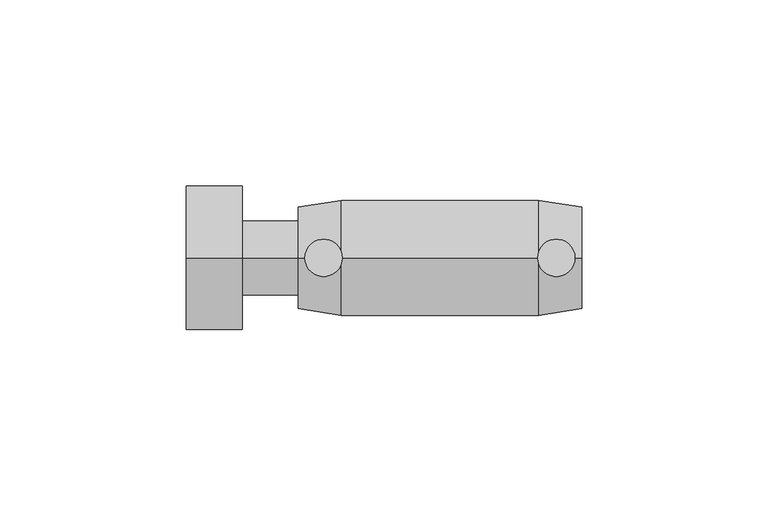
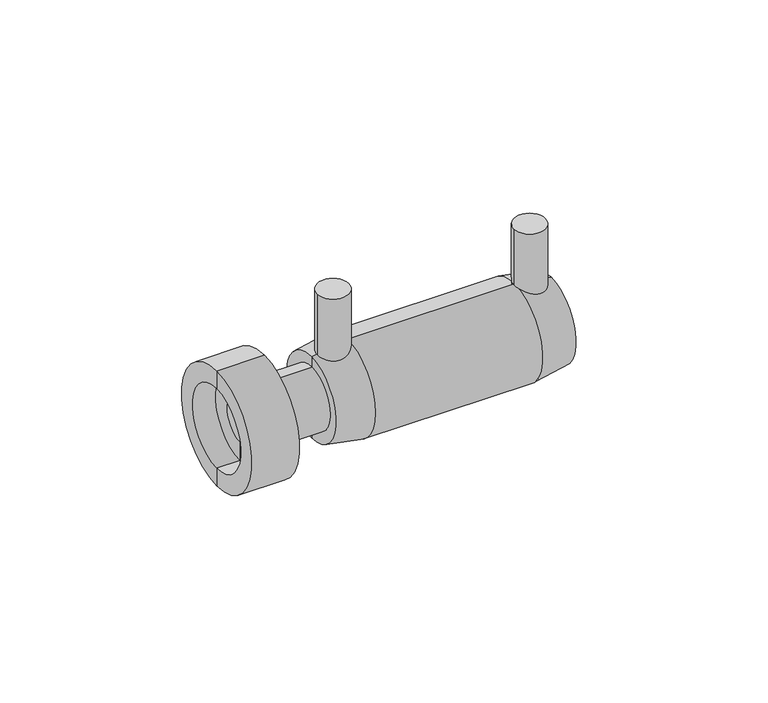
"""IFC4 building model written with IfcOpenShell, lengths in millimetres: pipe fitting geometry, Plumbing_Pipe-Fittings_Plasson_Female-Free-Nut-Transition-Coupler_494104 : Plumbing_Pipe-Fittings_Plasson_Female-Free-Nut-Transition-Coupler_494104."""

import ifcopenshell
import ifcopenshell.guid

model = None  # the IFC model being written
_history = None  # IfcOwnerHistory: only IFC2X3 demands one
_inside = {}  # id of a spatial element -> (the spatial element, [elements in it])
_under = {}  # id of a project, library or spatial element -> (it, [spatial elements below it])
_declared = {}  # id of a project -> (the project, [libraries it declares])
_typed = {}  # id of a type object -> (the type object, [elements of that type])
_made_of = {}  # id of a material, layer set ... -> (it, [elements and type objects made of it])


def new_model(schema):
    """Start an empty IFC model of exactly this schema.

    Asked for "IFC4X3", IfcOpenShell would pick the latest addendum, in which some entities
    have other attributes; the version numbers below select the first issue.
    IFC2X3 requires an IfcOwnerHistory on every rooted entity: one is made here for all.
    """
    global model, _history
    if schema == "IFC4X3":
        model = ifcopenshell.file(schema_version=(4, 3, 0, 0))
    else:
        model = ifcopenshell.file(schema=schema)
    _inside.clear()
    _under.clear()
    _declared.clear()
    _typed.clear()
    _made_of.clear()
    _history = None
    if model.schema == "IFC2X3":
        org = make("IfcOrganization", Name="unknown")
        user = make(
            "IfcPersonAndOrganization",
            ThePerson=make("IfcPerson", FamilyName="unknown"),
            TheOrganization=org,
        )
        app = make(
            "IfcApplication",
            ApplicationDeveloper=org,
            Version="unknown",
            ApplicationFullName="unknown",
            ApplicationIdentifier="unknown",
        )
        _history = make(
            "IfcOwnerHistory",
            OwningUser=user,
            OwningApplication=app,
            ChangeAction="ADDED",
            CreationDate=0,
        )
    return model


def make(cls, **values):
    """One entity of the class cls with the attributes given. An attribute that is None is left unset."""
    return model.create_entity(
        cls, **{name: value for name, value in values.items() if value is not None}
    )


def rooted(cls, **values):
    """An entity with a GlobalId (a new one), such as an element, a storey or a relation."""
    return make(cls, GlobalId=ifcopenshell.guid.new(), OwnerHistory=_history, **values)


def si_unit(unit_type, name, prefix=None):
    """IfcSIUnit, for example si_unit("LENGTHUNIT", "METRE", prefix="MILLI")."""
    return make("IfcSIUnit", UnitType=unit_type, Prefix=prefix, Name=name)


def assignment(units):
    """IfcUnitAssignment: the units of a project."""
    return None if units is None else make("IfcUnitAssignment", Units=units)


def point(xyz):
    """IfcCartesianPoint."""
    return None if xyz is None else make("IfcCartesianPoint", Coordinates=xyz)


def direction(xyz):
    """IfcDirection."""
    return None if xyz is None else make("IfcDirection", DirectionRatios=xyz)


def frame(location, z_axis=None, x_axis=None):
    """IfcAxis2Placement3D, a coordinate frame: its origin and axes. An axis left out is left unset."""
    return make(
        "IfcAxis2Placement3D",
        Location=point(location),
        Axis=direction(z_axis),
        RefDirection=direction(x_axis),
    )


def frame_2d(location, x_axis=None):
    """IfcAxis2Placement2D, a coordinate frame in the plane: its origin and x axis."""
    return make(
        "IfcAxis2Placement2D", Location=point(location), RefDirection=direction(x_axis)
    )


def origin():
    """The frame at (0, 0, 0) with its axes left unset."""
    return frame((0.0, 0.0, 0.0))


def place(relative_to, where):
    """IfcLocalPlacement: puts the frame where relative to a parent placement (None: the world)."""
    return make(
        "IfcLocalPlacement", PlacementRelTo=relative_to, RelativePlacement=where
    )


def context(
    kind, dimensions, precision=None, world=None, true_north=None, identifier=None
):
    """IfcGeometricRepresentationContext, for example the 3D "Model" context."""
    return make(
        "IfcGeometricRepresentationContext",
        ContextIdentifier=identifier,
        ContextType=kind,
        CoordinateSpaceDimension=dimensions,
        Precision=precision,
        WorldCoordinateSystem=world,
        TrueNorth=true_north,
    )


def project(units=None, contexts=None):
    """IfcProject with its units and contexts."""
    return rooted(
        "IfcProject",
        Name="project",
        RepresentationContexts=contexts,
        UnitsInContext=assignment(units),
    )


def spatial(cls, under=None, at=None, **own):
    """A site, building, storey or space (cls), placed at a placement, below another one or the project."""
    s = rooted(cls, ObjectPlacement=at, **own)
    if under is not None:
        _under.setdefault(under.id(), (under, []))[1].append(s)
    return s


def polyline(points):
    """IfcPolyline through the points."""
    return make("IfcPolyline", Points=[point(p) for p in points])


def circle_curve(where, radius):
    """IfcCircle in the frame where."""
    return make("IfcCircle", Position=where, Radius=radius)


def trimmed(basis, trim1, trim2, sense, master):
    """IfcTrimmedCurve: the piece of a basis curve between two trims."""
    return make(
        "IfcTrimmedCurve",
        BasisCurve=basis,
        Trim1=trim1,
        Trim2=trim2,
        SenseAgreement=sense,
        MasterRepresentation=master,
    )


def segment(curve, same_sense, transition):
    """IfcCompositeCurveSegment."""
    return make(
        "IfcCompositeCurveSegment",
        Transition=transition,
        SameSense=same_sense,
        ParentCurve=curve,
    )


def composite_curve(segments, self_intersect=None):
    """IfcCompositeCurve: segments joined end to end."""
    return make("IfcCompositeCurve", Segments=segments, SelfIntersect=self_intersect)


def outline(outer, holes=None, kind="AREA"):
    """IfcArbitraryClosedProfileDef: a profile drawn as a closed curve; with holes, ...WithVoids."""
    if holes is None:
        return make("IfcArbitraryClosedProfileDef", ProfileType=kind, OuterCurve=outer)
    return make(
        "IfcArbitraryProfileDefWithVoids",
        ProfileType=kind,
        OuterCurve=outer,
        InnerCurves=holes,
    )


def extrude(swept, where, along, depth):
    """IfcExtrudedAreaSolid: the profile swept, set in the frame where, extruded along a direction by depth."""
    return make(
        "IfcExtrudedAreaSolid",
        SweptArea=swept,
        Position=where,
        ExtrudedDirection=direction(along),
        Depth=depth,
    )


def shape(context_of_items, identifier, shape_type, items):
    """IfcShapeRepresentation: the items that make up one representation, for example the "Body"."""
    return make(
        "IfcShapeRepresentation",
        ContextOfItems=context_of_items,
        RepresentationIdentifier=identifier,
        RepresentationType=shape_type,
        Items=items,
    )


def source(mapping_origin, context_of_items, identifier, shape_type, items):
    """IfcRepresentationMap: a shape defined once, which mapped items show again and again."""
    return make(
        "IfcRepresentationMap",
        MappingOrigin=mapping_origin,
        MappedRepresentation=shape(context_of_items, identifier, shape_type, items),
    )


def transform(
    local_origin,
    x_axis=None,
    y_axis=None,
    z_axis=None,
    scale=None,
    scale2=None,
    scale3=None,
    uniform=True,
):
    """IfcCartesianTransformationOperator3D, or its non-uniform kind. x_axis, y_axis, z_axis: its Axis1, 2, 3."""
    if uniform:
        return make(
            "IfcCartesianTransformationOperator3D",
            Axis1=direction(x_axis),
            Axis2=direction(y_axis),
            LocalOrigin=point(local_origin),
            Scale=scale,
            Axis3=direction(z_axis),
        )
    return make(
        "IfcCartesianTransformationOperator3DnonUniform",
        Axis1=direction(x_axis),
        Axis2=direction(y_axis),
        LocalOrigin=point(local_origin),
        Scale=scale,
        Axis3=direction(z_axis),
        Scale2=scale2,
        Scale3=scale3,
    )


def mapped(mapping_source, mapping_target):
    """IfcMappedItem: shows the shape of a source again, moved by a transform."""
    return make(
        "IfcMappedItem", MappingSource=mapping_source, MappingTarget=mapping_target
    )


def made_of(thing, what):
    """Note that an element or type object is made of a material, layer set ...; save() writes the relation."""
    if what is not None:
        _made_of.setdefault(what.id(), (what, []))[1].append(thing)
    return thing


def element(
    cls,
    number,
    at=None,
    inside=None,
    cuts=None,
    type_object=None,
    material=None,
    context=None,
    identifier="Body",
    shape_type=None,
    held_by="IfcProductDefinitionShape",
    body=None,
    shapes=None,
    **own,
):
    """One element of the class cls, such as IfcWall. Its Tag is "e" and its number.

    at: its placement. inside: the storey or other place that contains it. cuts: it is an
    opening in that element (IfcRelVoidsElement). A single representation is given by context,
    identifier, shape_type and body (its items); several are given by shapes. held_by: the class
    of the entity that holds the representations. save() writes the other relations.
    """
    e = rooted(cls, Tag="e%d" % number, ObjectPlacement=at, **own)
    if body is not None:
        shapes = [shape(context, identifier, shape_type, body)]
    if shapes is not None:
        e.Representation = make(held_by, Representations=shapes)
    if inside is not None:
        _inside.setdefault(inside.id(), (inside, []))[1].append(e)
    if cuts is not None:
        rooted(
            "IfcRelVoidsElement", RelatingBuildingElement=cuts, RelatedOpeningElement=e
        )
    if type_object is not None:
        _typed.setdefault(type_object.id(), (type_object, []))[1].append(e)
    return made_of(e, material)


def aggregate(whole, parts):
    """IfcRelAggregates: a whole, such as a stair, and the parts it consists of."""
    return rooted("IfcRelAggregates", RelatingObject=whole, RelatedObjects=parts)


def save(model, path):
    """Write the relations noted so far, then the file.

    IfcRelAggregates (storeys below a building ...), IfcRelContainedInSpatialStructure (elements
    in a storey), IfcRelDefinesByType, IfcRelAssociatesMaterial and IfcRelDeclares: one each for
    every whole, place, type object, material and project.
    """
    for whole, parts in _under.values():
        aggregate(whole, parts)
    for where, things in _inside.values():
        rooted(
            "IfcRelContainedInSpatialStructure",
            RelatedElements=things,
            RelatingStructure=where,
        )
    for kind, things in _typed.values():
        rooted("IfcRelDefinesByType", RelatedObjects=things, RelatingType=kind)
    for what, things in _made_of.values():
        rooted("IfcRelAssociatesMaterial", RelatedObjects=things, RelatingMaterial=what)
    for by, libraries in _declared.values():
        rooted("IfcRelDeclares", RelatingContext=by, RelatedDefinitions=libraries)
    model.write(path)


def plane_surface(at):
    """IfcPlane: the flat surface through the origin of the frame at, square to its z axis."""
    return make("IfcPlane", Position=at)


def cylinder_surface(at, radius):
    """IfcCylindricalSurface: all points at the distance radius from the z axis of the frame at."""
    return make("IfcCylindricalSurface", Position=at, Radius=radius)


def revolved_surface(curve, axis_point, axis_direction):
    """IfcSurfaceOfRevolution: the curve turned about the line through axis_point along axis_direction."""
    return make(
        "IfcSurfaceOfRevolution",
        SweptCurve=make("IfcArbitraryOpenProfileDef", ProfileType="CURVE", Curve=curve),
        AxisPosition=make("IfcAxis1Placement", Location=point(axis_point), Axis=direction(axis_direction)),
    )


def advanced_brep(points, edges, surfaces, faces):
    """IfcAdvancedBrep: a solid bounded by faces that lie on surfaces and meet in shared edges.

    An edge is (start, end): straight between two places in points (the first is 0);
    or (start, end, curve); or (start, end, curve, False) where it runs against its curve.
    A face is (place in surfaces, loops), or (place, loops, False) where it looks against
    its surface's normal. A loop lists edges by number (the first is 1), with a minus sign
    where the edge is run from its end to its start. The first loop is the outer one.
    """
    corners = [point(p) for p in points]
    vertices = [make("IfcVertexPoint", VertexGeometry=c) for c in corners]
    made = []
    for start, end, *more in edges:
        made.append(
            make(
                "IfcEdgeCurve",
                EdgeStart=vertices[start],
                EdgeEnd=vertices[end],
                EdgeGeometry=more[0] if more else make("IfcPolyline", Points=[corners[start], corners[end]]),
                SameSense=more[1] if len(more) > 1 else True,
            )
        )
    hull = []
    for where, loops, *sense in faces:
        bounds = []
        for j, loop in enumerate(loops):
            ring = [make("IfcOrientedEdge", EdgeElement=made[abs(k) - 1], Orientation=k > 0) for k in loop]
            bounds.append(
                make(
                    "IfcFaceOuterBound" if j == 0 else "IfcFaceBound",
                    Bound=make("IfcEdgeLoop", EdgeList=ring),
                    Orientation=True,
                )
            )
        hull.append(make("IfcAdvancedFace", Bounds=bounds, FaceSurface=surfaces[where], SameSense=sense[0] if sense else True))
    return make("IfcAdvancedBrep", Outer=make("IfcClosedShell", CfsFaces=hull))


def pipe_fitting_e051d7a7(model_context):
    return source(origin(), model_context, "Body", "SolidModel", [
        extrude(outline(composite_curve([segment(trimmed(circle_curve(frame_2d((-16.2115754, 0.0)), 5.0), [point((-11.2115754, 0.0))], [point((-21.2115754, 0.0))], False, "CARTESIAN"), True, "CONTINUOUS"), segment(trimmed(circle_curve(frame_2d((-16.2115754, 0.0)), 5.0), [point((-21.2115754, 0.0))], [point((-11.2115754, 0.0))], False, "CARTESIAN"), True, "CONTINUOUS")], self_intersect=False)), frame((0.0, 0.0, 11.6666667), z_axis=(0.0, 0.0, 1.0), x_axis=(1.0, 0.0, 0.0)), (0.0, 0.0, 1.0), 22.3333333),
        extrude(outline(composite_curve([segment(trimmed(circle_curve(frame_2d((46.2115754, 0.0)), 5.0), [point((51.2115754, 0.0))], [point((41.2115754, 0.0))], False, "CARTESIAN"), True, "CONTINUOUS"), segment(trimmed(circle_curve(frame_2d((46.2115754, 0.0)), 5.0), [point((41.2115754, 0.0))], [point((51.2115754, 0.0))], False, "CARTESIAN"), True, "CONTINUOUS")], self_intersect=False)), frame((0.0, 0.0, 11.6666667), z_axis=(0.0, 0.0, 1.0), x_axis=(1.0, 0.0, 0.0)), (0.0, 0.0, 1.0), 22.3333333),
        advanced_brep(
        [(-45.8266545, 0.0, -13.335), (-45.8266545, 0.0, 13.335), (-53.0, 0.0, 13.335), (-53.0, 0.0, -13.335), (-45.8266545, 0.0, -7.0), (-45.8266545, 0.0, 7.0), (14.0, 0.0, -10.0), (14.0, 0.0, 10.0), (14.0, 0.0, 7.0), (14.0, 0.0, -7.0), (-38.0, 0.0, -10.0), (-38.0, 0.0, 10.0), (-53.0, 0.0, -19.335), (-53.0, 0.0, 19.335), (-38.0, 0.0, 19.335), (-38.0, 0.0, -19.335)],
        [
            (0, 1, circle_curve(frame((-45.8266545, 0.0, 0.0), z_axis=(1.0, 0.0, 0.0), x_axis=(0.0, 0.0, 1.0)), 13.335)),
            (1, 2),
            (2, 3, circle_curve(frame((-53.0, 0.0, 0.0), z_axis=(-1.0, 0.0, 0.0), x_axis=(0.0, 0.0, 1.0)), 13.335)),
            (3, 0),
            (1, 0, circle_curve(frame((-45.8266545, 0.0, 0.0), z_axis=(1.0, 0.0, 0.0), x_axis=(0.0, 0.0, 1.0)), 13.335)),
            (3, 2, circle_curve(frame((-53.0, 0.0, 0.0), z_axis=(-1.0, 0.0, 0.0), x_axis=(0.0, 0.0, 1.0)), 13.335)),
            (4, 5, circle_curve(frame((-45.8266545, 0.0, 0.0), z_axis=(1.0, 0.0, 0.0), x_axis=(0.0, 0.0, 1.0)), 7.0)),
            (5, 1),
            (0, 4),
            (5, 4, circle_curve(frame((-45.8266545, 0.0, 0.0), z_axis=(1.0, 0.0, 0.0), x_axis=(0.0, 0.0, 1.0)), 7.0)),
            (6, 7, circle_curve(frame((14.0, 0.0, 0.0), z_axis=(1.0, 0.0, 0.0), x_axis=(0.0, 0.0, 1.0)), 10.0)),
            (7, 8),
            (8, 9, circle_curve(frame((14.0, 0.0, 0.0), z_axis=(-1.0, 0.0, 0.0), x_axis=(0.0, 0.0, 1.0)), 7.0)),
            (9, 6),
            (7, 6, circle_curve(frame((14.0, 0.0, 0.0), z_axis=(1.0, 0.0, 0.0), x_axis=(0.0, 0.0, 1.0)), 10.0)),
            (9, 8, circle_curve(frame((14.0, 0.0, 0.0), z_axis=(-1.0, 0.0, 0.0), x_axis=(0.0, 0.0, 1.0)), 7.0)),
            (10, 11, circle_curve(frame((-38.0, 0.0, 0.0), z_axis=(1.0, 0.0, 0.0), x_axis=(0.0, 0.0, 1.0)), 10.0)),
            (11, 7),
            (6, 10),
            (11, 10, circle_curve(frame((-38.0, 0.0, 0.0), z_axis=(1.0, 0.0, 0.0), x_axis=(0.0, 0.0, 1.0)), 10.0)),
            (12, 13, circle_curve(frame((-53.0, 0.0, 0.0), z_axis=(1.0, 0.0, 0.0), x_axis=(0.0, 0.0, 1.0)), 19.335)),
            (13, 14),
            (14, 15, circle_curve(frame((-38.0, 0.0, 0.0), z_axis=(-1.0, 0.0, 0.0), x_axis=(0.0, 0.0, 1.0)), 19.335)),
            (15, 12),
            (13, 12, circle_curve(frame((-53.0, 0.0, 0.0), z_axis=(1.0, 0.0, 0.0), x_axis=(0.0, 0.0, 1.0)), 19.335)),
            (15, 14, circle_curve(frame((-38.0, 0.0, 0.0), z_axis=(-1.0, 0.0, 0.0), x_axis=(0.0, 0.0, 1.0)), 19.335)),
            (2, 13),
            (12, 3),
            (8, 5),
            (4, 9),
            (14, 11),
            (10, 15),
        ],
        [
            revolved_surface(polyline([(-53.0, 0.0, 13.335), (-45.8266545, 0.0, 13.335)]), (-53.0, 0.0, 0.0), (-1.0, 0.0, 0.0)),
            plane_surface(frame((-45.8266545, 0.0, 0.0), z_axis=(-1.0, 0.0, 0.0), x_axis=(0.0, 0.0, 1.0))),
            plane_surface(frame((14.0, 0.0, 0.0), z_axis=(1.0, 0.0, 0.0), x_axis=(0.0, 0.0, 1.0))),
            cylinder_surface(frame((-53.0, 0.0, 0.0), z_axis=(-1.0, 0.0, 0.0), x_axis=(0.0, 0.0, 1.0)), 10.0),
            cylinder_surface(frame((-53.0, 0.0, 0.0), z_axis=(-1.0, 0.0, 0.0), x_axis=(0.0, 0.0, 1.0)), 19.335),
            plane_surface(frame((-53.0, 0.0, 0.0), z_axis=(-1.0, 0.0, 0.0), x_axis=(0.0, 0.0, 1.0))),
            revolved_surface(polyline([(-45.8266545, 0.0, 7.0), (14.0, 0.0, 7.0)]), (-53.0, 0.0, 0.0), (-1.0, 0.0, 0.0)),
            plane_surface(frame((-38.0, 0.0, 0.0), z_axis=(1.0, 0.0, 0.0), x_axis=(0.0, 0.0, 1.0))),
        ],
        [
            (0, [[1, 2, 3, 4]]),
            (0, [[5, -4, 6, -2]]),
            (1, [[7, 8, -1, 9]]),
            (1, [[10, -9, -5, -8]]),
            (2, [[11, 12, 13, 14]]),
            (2, [[15, -14, 16, -12]]),
            (3, [[17, 18, -11, 19]]),
            (3, [[20, -19, -15, -18]]),
            (4, [[21, 22, 23, 24]]),
            (4, [[25, -24, 26, -22]]),
            (5, [[-3, 27, -21, 28]]),
            (5, [[-6, -28, -25, -27]]),
            (6, [[-13, 29, -7, 30]]),
            (6, [[-16, -30, -10, -29]]),
            (7, [[-23, 31, -17, 32]]),
            (7, [[-26, -32, -20, -31]]),
        ],
    ),
        advanced_brep(
        [(53.0, 0.0, -13.6666667), (53.0, 0.0, 13.6666667), (53.0, 0.0, 10.0), (53.0, 0.0, -10.0), (41.5, 0.0, -15.5), (41.5, 0.0, 15.5), (-11.5, 0.0, -15.5), (-11.5, 0.0, 15.5), (-23.0, 0.0, -13.6666667), (-23.0, 0.0, 13.6666667), (-23.0, 0.0, -10.0), (-23.0, 0.0, 10.0), (14.0, 0.0, -10.0), (14.0, 0.0, 10.0), (14.0, 0.0, -7.0), (14.0, 0.0, 7.0), (16.0, 0.0, -7.0), (16.0, 0.0, 7.0), (16.0, 0.0, -10.0), (16.0, 0.0, 10.0)],
        [
            (0, 1, circle_curve(frame((53.0, 0.0, 0.0), z_axis=(1.0, 0.0, 0.0), x_axis=(0.0, 0.0, 1.0)), 13.6666667)),
            (1, 2),
            (2, 3, circle_curve(frame((53.0, 0.0, 0.0), z_axis=(-1.0, 0.0, 0.0), x_axis=(0.0, 0.0, 1.0)), 10.0)),
            (3, 0),
            (1, 0, circle_curve(frame((53.0, 0.0, 0.0), z_axis=(1.0, 0.0, 0.0), x_axis=(0.0, 0.0, 1.0)), 13.6666667)),
            (3, 2, circle_curve(frame((53.0, 0.0, 0.0), z_axis=(-1.0, 0.0, 0.0), x_axis=(0.0, 0.0, 1.0)), 10.0)),
            (4, 5, circle_curve(frame((41.5, 0.0, 0.0), z_axis=(1.0, 0.0, 0.0), x_axis=(0.0, 0.0, 1.0)), 15.5)),
            (5, 1),
            (0, 4),
            (5, 4, circle_curve(frame((41.5, 0.0, 0.0), z_axis=(1.0, 0.0, 0.0), x_axis=(0.0, 0.0, 1.0)), 15.5)),
            (6, 7, circle_curve(frame((-11.5, 0.0, 0.0), z_axis=(1.0, 0.0, 0.0), x_axis=(0.0, 0.0, 1.0)), 15.5)),
            (7, 5),
            (4, 6),
            (7, 6, circle_curve(frame((-11.5, 0.0, 0.0), z_axis=(1.0, 0.0, 0.0), x_axis=(0.0, 0.0, 1.0)), 15.5)),
            (8, 9, circle_curve(frame((-23.0, 0.0, 0.0), z_axis=(1.0, 0.0, 0.0), x_axis=(0.0, 0.0, 1.0)), 13.6666667)),
            (9, 7),
            (6, 8),
            (9, 8, circle_curve(frame((-23.0, 0.0, 0.0), z_axis=(1.0, 0.0, 0.0), x_axis=(0.0, 0.0, 1.0)), 13.6666667)),
            (10, 11, circle_curve(frame((-23.0, 0.0, 0.0), z_axis=(1.0, 0.0, 0.0), x_axis=(0.0, 0.0, 1.0)), 10.0)),
            (11, 9),
            (8, 10),
            (11, 10, circle_curve(frame((-23.0, 0.0, 0.0), z_axis=(1.0, 0.0, 0.0), x_axis=(0.0, 0.0, 1.0)), 10.0)),
            (12, 13, circle_curve(frame((14.0, 0.0, 0.0), z_axis=(1.0, 0.0, 0.0), x_axis=(0.0, 0.0, 1.0)), 10.0)),
            (13, 11),
            (10, 12),
            (13, 12, circle_curve(frame((14.0, 0.0, 0.0), z_axis=(1.0, 0.0, 0.0), x_axis=(0.0, 0.0, 1.0)), 10.0)),
            (14, 15, circle_curve(frame((14.0, 0.0, 0.0), z_axis=(1.0, 0.0, 0.0), x_axis=(0.0, 0.0, 1.0)), 7.0)),
            (15, 13),
            (12, 14),
            (15, 14, circle_curve(frame((14.0, 0.0, 0.0), z_axis=(1.0, 0.0, 0.0), x_axis=(0.0, 0.0, 1.0)), 7.0)),
            (16, 17, circle_curve(frame((16.0, 0.0, 0.0), z_axis=(1.0, 0.0, 0.0), x_axis=(0.0, 0.0, 1.0)), 7.0)),
            (17, 15),
            (14, 16),
            (17, 16, circle_curve(frame((16.0, 0.0, 0.0), z_axis=(1.0, 0.0, 0.0), x_axis=(0.0, 0.0, 1.0)), 7.0)),
            (18, 19, circle_curve(frame((16.0, 0.0, 0.0), z_axis=(1.0, 0.0, 0.0), x_axis=(0.0, 0.0, 1.0)), 10.0)),
            (19, 17),
            (16, 18),
            (19, 18, circle_curve(frame((16.0, 0.0, 0.0), z_axis=(1.0, 0.0, 0.0), x_axis=(0.0, 0.0, 1.0)), 10.0)),
            (2, 19),
            (18, 3),
        ],
        [
            plane_surface(frame((53.0, 0.0, 0.0), z_axis=(1.0, 0.0, 0.0), x_axis=(0.0, 0.0, 1.0))),
            revolved_surface(polyline([(53.0, 0.0, 13.6666667), (41.5, 0.0, 15.5)]), (-23.0, 0.0, 0.0), (-1.0, 0.0, 0.0)),
            cylinder_surface(frame((-23.0, 0.0, 0.0), z_axis=(-1.0, 0.0, 0.0), x_axis=(0.0, 0.0, 1.0)), 15.5),
            revolved_surface(polyline([(-11.5, 0.0, 15.5), (-23.0, 0.0, 13.6666667)]), (-23.0, 0.0, 0.0), (-1.0, 0.0, 0.0)),
            plane_surface(frame((-23.0, 0.0, 0.0), z_axis=(-1.0, 0.0, 0.0), x_axis=(0.0, 0.0, 1.0))),
            revolved_surface(polyline([(-23.0, 0.0, 10.0), (14.0, 0.0, 10.0)]), (-23.0, 0.0, 0.0), (-1.0, 0.0, 0.0)),
            plane_surface(frame((14.0, 0.0, 0.0), z_axis=(-1.0, 0.0, 0.0), x_axis=(0.0, 0.0, 1.0))),
            revolved_surface(polyline([(14.0, 0.0, 7.0), (16.0, 0.0, 7.0)]), (-23.0, 0.0, 0.0), (-1.0, 0.0, 0.0)),
            plane_surface(frame((16.0, 0.0, 0.0), z_axis=(1.0, 0.0, 0.0), x_axis=(0.0, 0.0, 1.0))),
            revolved_surface(polyline([(16.0, 0.0, 10.0), (53.0, 0.0, 10.0)]), (-23.0, 0.0, 0.0), (-1.0, 0.0, 0.0)),
        ],
        [
            (0, [[1, 2, 3, 4]]),
            (0, [[5, -4, 6, -2]]),
            (1, [[7, 8, -1, 9]]),
            (1, [[10, -9, -5, -8]]),
            (2, [[11, 12, -7, 13]]),
            (2, [[14, -13, -10, -12]]),
            (3, [[15, 16, -11, 17]]),
            (3, [[18, -17, -14, -16]]),
            (4, [[19, 20, -15, 21]]),
            (4, [[22, -21, -18, -20]]),
            (5, [[23, 24, -19, 25]]),
            (5, [[26, -25, -22, -24]]),
            (6, [[27, 28, -23, 29]]),
            (6, [[30, -29, -26, -28]]),
            (7, [[31, 32, -27, 33]]),
            (7, [[34, -33, -30, -32]]),
            (8, [[35, 36, -31, 37]]),
            (8, [[38, -37, -34, -36]]),
            (9, [[-3, 39, -35, 40]]),
            (9, [[-6, -40, -38, -39]]),
        ],
    ),
    ])


if __name__ == "__main__":
    model = new_model("IFC4")
    model_context = context("Model", 3, world=origin())
    ifc_project = project(units=[si_unit("LENGTHUNIT", "METRE", prefix="MILLI")], contexts=[model_context])
    site = spatial("IfcSite", under=ifc_project)
    building = spatial("IfcBuilding", under=site)
    placement = place(None, origin())
    pipe_fitting_shape = pipe_fitting_e051d7a7(model_context)
    element("IfcPipeFitting", 1, ObjectType="Plumbing_Pipe-Fittings_Plasson_Female-Free-Nut-Transition-Coupler_494104 : Plumbing_Pipe-Fittings_Plasson_Female-Free-Nut-Transition-Coupler_494104", at=placement, inside=building, context=model_context, shape_type="MappedRepresentation", body=[
        mapped(pipe_fitting_shape, transform((0.0, 0.0, 0.0), x_axis=(1.0, 0.0, 0.0), y_axis=(0.0, 1.0, 0.0), z_axis=(0.0, 0.0, 1.0))),
    ])
    save(model, "model.ifc")
